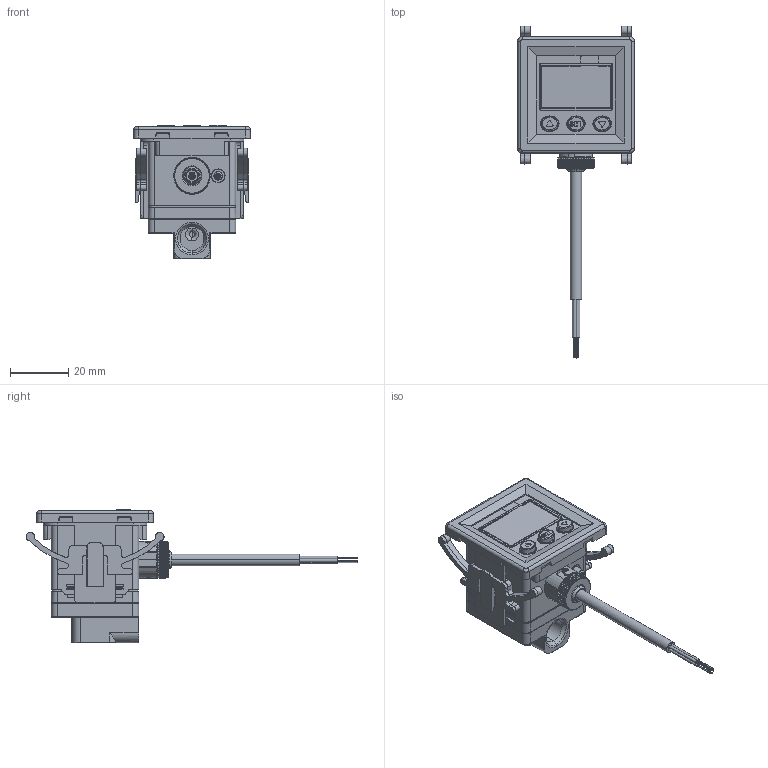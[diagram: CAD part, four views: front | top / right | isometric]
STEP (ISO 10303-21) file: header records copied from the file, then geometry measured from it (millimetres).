
FILE_DESCRIPTION((''),'2;1');
FILE_NAME('KP45_PA-E','2019-07-05T',('Stark'),(''),'CREO PARAMETRIC BY PTC INC, 2014500','CREO PARAMETRIC BY PTC INC, 2014500','');
FILE_SCHEMA(('CONFIG_CONTROL_DESIGN'));
Products named in the file (1): KP45_PA-E
Bounding box: 40 x 114 x 46 mm (x, y, z)
Volume: 40412.3 mm3; surface area: 17125.4 mm2
Topology: 1 solids, 1 shells, 1476 faces, 3884 edges, 2450 vertices
Faces by surface type: plane 696, cylinder 432, cone 186, bspline 84, torus 44, sphere 20, extrusion 14
Entity records: 53690 total; most frequent: CARTESIAN_POINT 19130, ORIENTED_EDGE 7764, DIRECTION 6331, EDGE_CURVE 3882, VERTEX_POINT 2450, VECTOR 2119, AXIS2_PLACEMENT_3D 2106, LINE 2105
